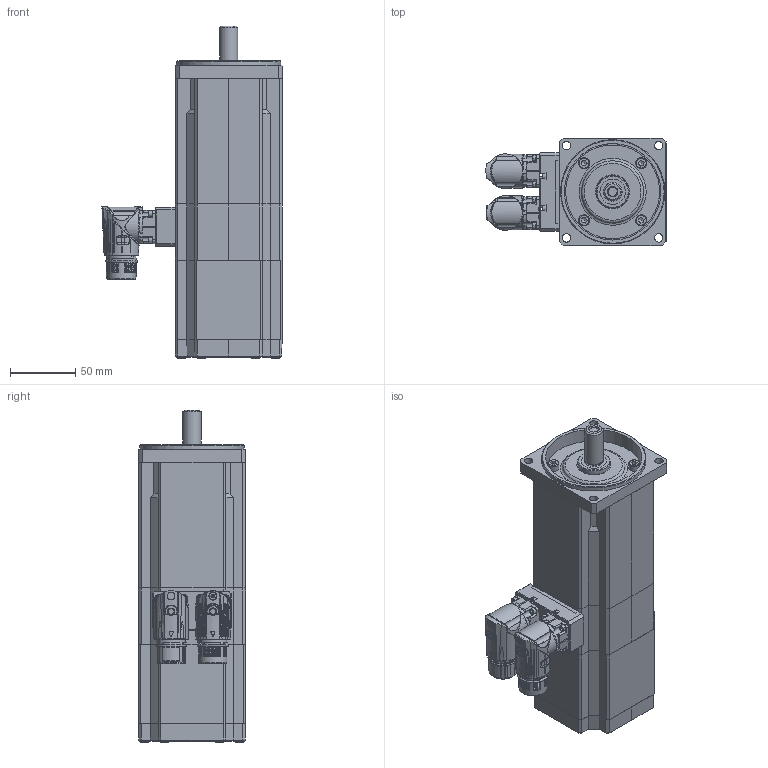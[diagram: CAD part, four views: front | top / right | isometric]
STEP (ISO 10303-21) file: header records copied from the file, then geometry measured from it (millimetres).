
FILE_DESCRIPTION(/* description */ (''),/* implementation_level */ '2;1');
FILE_NAME(/* name */ 'D:\InventorWorkspace2017\CAD\Projekte_EDEM\HLR\Zubehörteile\SMHA826003814S2I64A72.stp',/* time_stamp */ '2019-02-13T12:33:52+01:00',/* author */ ('544672'),/* organization */ (''),/* preprocessor_version */ 'ST-DEVELOPER v16.5',/* originating_system */ 'Autodesk Inventor 2017',/* authorisation */ '');
FILE_SCHEMA (('AP203_CONFIGURATION_CONTROLLED_3D_DESIGN_OF_MECHANICAL_PARTS_AND_ASSEMBLIES_MIM_LF { 1 0 10303 203 3 1 4 }','AUTOMOTIVE_DESIGN { 1 0 10303 214 3 1 1 }'));
Products named in the file (1): SMHA826003814S2I64A72
Bounding box: 138.21 x 82.45 x 254.6 mm (x, y, z)
Volume: 1392275.2 mm3; surface area: 114495.4 mm2
Topology: 1 solids, 1 shells, 2418 faces, 6095 edges, 3717 vertices
Faces by surface type: plane 745, cylinder 650, bspline 576, torus 211, cone 186, sphere 50
Full cylindrical faces by diameter (mm): 1.2 x15, 2 x6, 2.15 x6, 3 x4, 3.1 x4, 4.5 x10, 5.5 x6, 5.9 x2, 6.5 x4, 7 x4, 7.5 x4, 8.5 x4, 14 x1, 19.16 x1, 21.15 x2, 21.6 x2, 21.8 x1, 21.9 x1, 24.4 x1, 24.8 x1, 25 x2, 72 x1, 74 x1, 80 x1
Entity records: 129732 total; most frequent: CARTESIAN_POINT 73545, ORIENTED_EDGE 11626, DIRECTION 10534, EDGE_CURVE 5813, AXIS2_PLACEMENT_3D 4253, VERTEX_POINT 3639, EDGE_LOOP 2687, ADVANCED_FACE 2416
